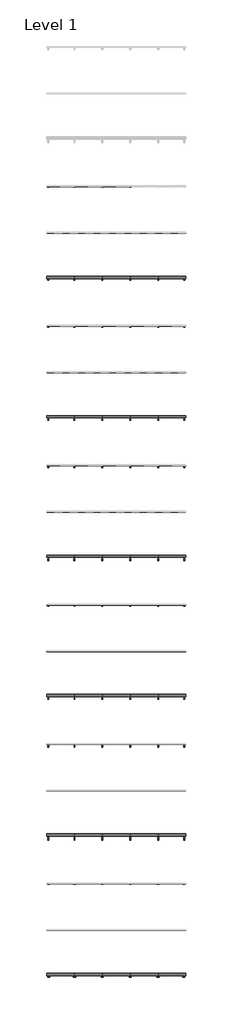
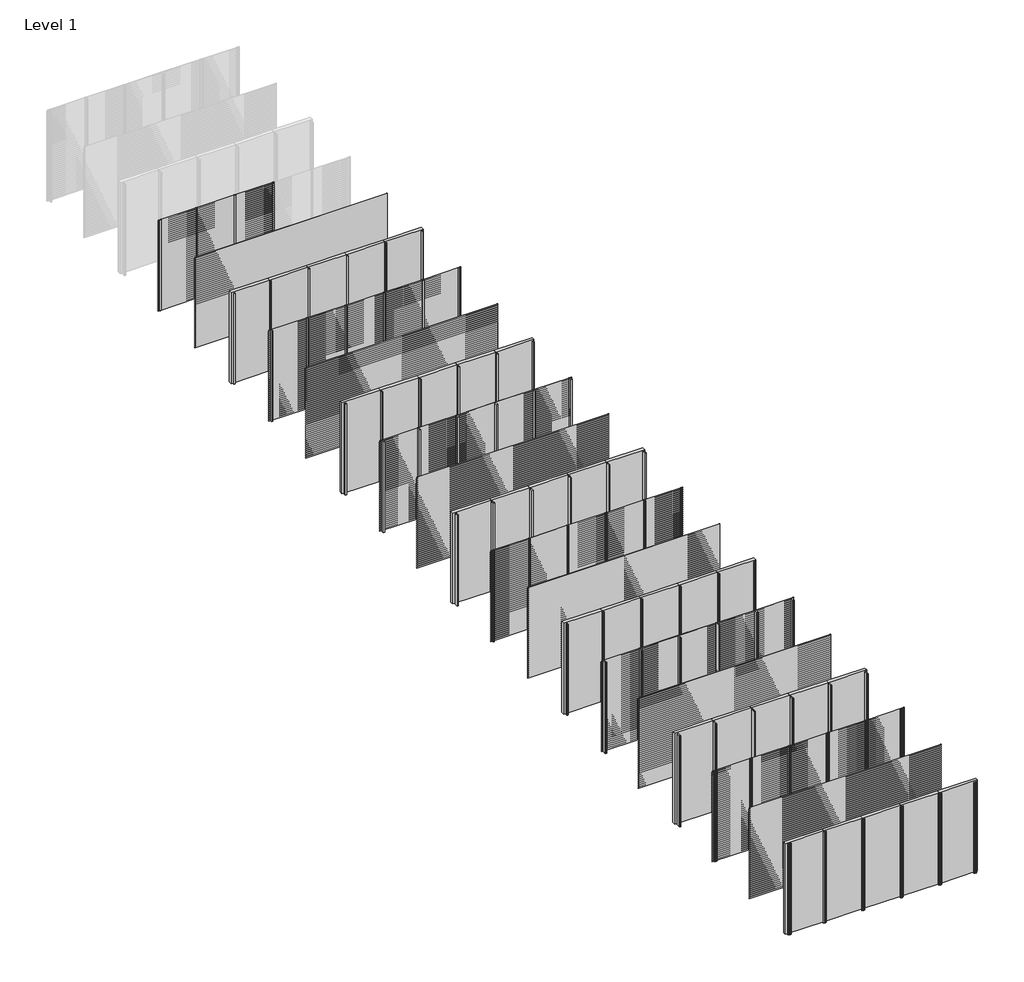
# One storey, part 1 of 33: 70 members, 64 plates.
"""IFC4 building model written with IfcOpenShell, lengths in millimetres."""

from ifc_helpers import new_model, si_unit, origin, origin_with_axes, place, context, project, spatial, polyline, outline, extrude, transform, mapped, element, save
from components import rectangular_mullion_3facce28, rectangular_mullion_6cf2c509, rectangular_mullion_8b77bd57, rectangular_mullion_2c867e25, rectangular_mullion_7803f5c4, rectangular_mullion_82152e2f, rectangular_mullion_2b84ad7e, rectangular_mullion_0fd695e7, rectangular_mullion_9b796d85, rectangular_mullion_dfb17e98, rectangular_mullion_6132f1f1, rectangular_mullion_8f153c19, rectangular_mullion_5b30f3fd, rectangular_mullion_5e0e8e0a, rectangular_mullion_d2d38772, rectangular_mullion_efb80f74, rectangular_mullion_aaa1fb1b, rectangular_mullion_ea9d012c, empty_system_panel_empty_aabbdda4

model = new_model("IFC4")

# Units and contexts
model_context = context("Model", 3, world=origin())
ifc_project = project(units=[si_unit("LENGTHUNIT", "METRE", prefix="MILLI")], contexts=[model_context])

# Site, building, storey
site = spatial("IfcSite", under=ifc_project)
building = spatial("IfcBuilding", under=site)
storey = spatial("IfcBuildingStorey", under=building, Name="Level 1", Elevation=0.0)

# Members
placement = place(None, origin())
rectangular_mullion_shape = rectangular_mullion_3facce28(model_context)
element("IfcMember", 1, ObjectType="Rectangular Mullion : NLRS_21_CWM_drager SD.014_Storax", at=placement, inside=storey, context=model_context, shape_type="MappedRepresentation", body=[
    mapped(rectangular_mullion_shape, transform((3600.0, -24000.0, 0.0), x_axis=(-1.0, 0.0, 0.0), y_axis=(0.0, 1.0, 0.0), z_axis=(0.0, 0.0, -1.0))),
])
element("IfcMember", 2, ObjectType="Rectangular Mullion : NLRS_21_CWM_drager SD.014_Storax", at=placement, inside=storey, context=model_context, shape_type="MappedRepresentation", body=[
    mapped(rectangular_mullion_shape, transform((2400.0, -24000.0, 0.0), x_axis=(-1.0, 0.0, 0.0), y_axis=(0.0, 1.0, 0.0), z_axis=(0.0, 0.0, -1.0))),
])
element("IfcMember", 3, ObjectType="Rectangular Mullion : NLRS_21_CWM_drager SD.014_Storax", at=placement, inside=storey, context=model_context, shape_type="MappedRepresentation", body=[
    mapped(rectangular_mullion_shape, transform((1200.0, -24000.0, 0.0), x_axis=(-1.0, 0.0, 0.0), y_axis=(0.0, 1.0, 0.0), z_axis=(0.0, 0.0, -1.0))),
])
element("IfcMember", 4, ObjectType="Rectangular Mullion : NLRS_21_CWM_drager SD.014_Storax", at=placement, inside=storey, context=model_context, shape_type="MappedRepresentation", body=[
    mapped(rectangular_mullion_shape, transform((4800.0, -28000.0, 0.0), x_axis=(-1.0, 0.0, 0.0), y_axis=(0.0, 1.0, 0.0), z_axis=(0.0, 0.0, -1.0))),
])
element("IfcMember", 5, ObjectType="Rectangular Mullion : NLRS_21_CWM_drager SD.014_Storax", at=placement, inside=storey, context=model_context, shape_type="MappedRepresentation", body=[
    mapped(rectangular_mullion_shape, transform((3600.0, -28000.0, 0.0), x_axis=(-1.0, 0.0, 0.0), y_axis=(0.0, 1.0, 0.0), z_axis=(0.0, 0.0, -1.0))),
])
element("IfcMember", 6, ObjectType="Rectangular Mullion : NLRS_21_CWM_drager SD.014_Storax", at=placement, inside=storey, context=model_context, shape_type="MappedRepresentation", body=[
    mapped(rectangular_mullion_shape, transform((2400.0, -28000.0, 0.0), x_axis=(-1.0, 0.0, 0.0), y_axis=(0.0, 1.0, 0.0), z_axis=(0.0, 0.0, -1.0))),
])
element("IfcMember", 7, ObjectType="Rectangular Mullion : NLRS_21_CWM_drager SD.014_Storax", at=placement, inside=storey, context=model_context, shape_type="MappedRepresentation", body=[
    mapped(rectangular_mullion_shape, transform((1200.0, -28000.0, 0.0), x_axis=(-1.0, 0.0, 0.0), y_axis=(0.0, 1.0, 0.0), z_axis=(0.0, 0.0, -1.0))),
])
rectangular_mullion_2_shape = rectangular_mullion_6cf2c509(model_context)
element("IfcMember", 8, ObjectType="Rectangular Mullion : NLRS_21_CWM_drager SD.054_Storax", at=placement, inside=storey, context=model_context, shape_type="MappedRepresentation", body=[
    mapped(rectangular_mullion_2_shape, transform((4800.0, -30000.0, 0.0), x_axis=(-1.0, 0.0, 0.0), y_axis=(0.0, 1.0, 0.0), z_axis=(0.0, 0.0, -1.0))),
])
element("IfcMember", 9, ObjectType="Rectangular Mullion : NLRS_21_CWM_drager SD.054_Storax", at=placement, inside=storey, context=model_context, shape_type="MappedRepresentation", body=[
    mapped(rectangular_mullion_2_shape, transform((3600.0, -30000.0, 0.0), x_axis=(-1.0, 0.0, 0.0), y_axis=(0.0, 1.0, 0.0), z_axis=(0.0, 0.0, -1.0))),
])
element("IfcMember", 10, ObjectType="Rectangular Mullion : NLRS_21_CWM_drager SD.054_Storax", at=placement, inside=storey, context=model_context, shape_type="MappedRepresentation", body=[
    mapped(rectangular_mullion_2_shape, transform((2400.0, -30000.0, 0.0), x_axis=(-1.0, 0.0, 0.0), y_axis=(0.0, 1.0, 0.0), z_axis=(0.0, 0.0, -1.0))),
])
element("IfcMember", 11, ObjectType="Rectangular Mullion : NLRS_21_CWM_drager SD.054_Storax", at=placement, inside=storey, context=model_context, shape_type="MappedRepresentation", body=[
    mapped(rectangular_mullion_2_shape, transform((1200.0, -30000.0, 0.0), x_axis=(-1.0, 0.0, 0.0), y_axis=(0.0, 1.0, 0.0), z_axis=(0.0, 0.0, -1.0))),
])
element("IfcMember", 12, ObjectType="Rectangular Mullion : NLRS_21_CWM_drager SD.054_Storax", at=placement, inside=storey, context=model_context, shape_type="MappedRepresentation", body=[
    mapped(rectangular_mullion_2_shape, transform((4800.0, -34000.0, 0.0), x_axis=(-1.0, 0.0, 0.0), y_axis=(0.0, 1.0, 0.0), z_axis=(0.0, 0.0, -1.0))),
])
element("IfcMember", 13, ObjectType="Rectangular Mullion : NLRS_21_CWM_drager SD.054_Storax", at=placement, inside=storey, context=model_context, shape_type="MappedRepresentation", body=[
    mapped(rectangular_mullion_2_shape, transform((3600.0, -34000.0, 0.0), x_axis=(-1.0, 0.0, 0.0), y_axis=(0.0, 1.0, 0.0), z_axis=(0.0, 0.0, -1.0))),
])
element("IfcMember", 14, ObjectType="Rectangular Mullion : NLRS_21_CWM_drager SD.054_Storax", at=placement, inside=storey, context=model_context, shape_type="MappedRepresentation", body=[
    mapped(rectangular_mullion_2_shape, transform((2400.0, -34000.0, 0.0), x_axis=(-1.0, 0.0, 0.0), y_axis=(0.0, 1.0, 0.0), z_axis=(0.0, 0.0, -1.0))),
])
element("IfcMember", 15, ObjectType="Rectangular Mullion : NLRS_21_CWM_drager SD.054_Storax", at=placement, inside=storey, context=model_context, shape_type="MappedRepresentation", body=[
    mapped(rectangular_mullion_2_shape, transform((1200.0, -34000.0, 0.0), x_axis=(-1.0, 0.0, 0.0), y_axis=(0.0, 1.0, 0.0), z_axis=(0.0, 0.0, -1.0))),
])
rectangular_mullion_3_shape = rectangular_mullion_8b77bd57(model_context)
element("IfcMember", 16, ObjectType="Rectangular Mullion : NLRS_21_CWM_drager SD.100_Storax", at=placement, inside=storey, context=model_context, shape_type="MappedRepresentation", body=[
    mapped(rectangular_mullion_3_shape, transform((4800.0, -36000.0, 0.0), x_axis=(-1.0, 0.0, 0.0), y_axis=(0.0, 1.0, 0.0), z_axis=(0.0, 0.0, -1.0))),
])
element("IfcMember", 17, ObjectType="Rectangular Mullion : NLRS_21_CWM_drager SD.100_Storax", at=placement, inside=storey, context=model_context, shape_type="MappedRepresentation", body=[
    mapped(rectangular_mullion_3_shape, transform((3600.0, -36000.0, 0.0), x_axis=(-1.0, 0.0, 0.0), y_axis=(0.0, 1.0, 0.0), z_axis=(0.0, 0.0, -1.0))),
])
element("IfcMember", 18, ObjectType="Rectangular Mullion : NLRS_21_CWM_drager SD.100_Storax", at=placement, inside=storey, context=model_context, shape_type="MappedRepresentation", body=[
    mapped(rectangular_mullion_3_shape, transform((2400.0, -36000.0, 0.0), x_axis=(-1.0, 0.0, 0.0), y_axis=(0.0, 1.0, 0.0), z_axis=(0.0, 0.0, -1.0))),
])
element("IfcMember", 19, ObjectType="Rectangular Mullion : NLRS_21_CWM_drager SD.100_Storax", at=placement, inside=storey, context=model_context, shape_type="MappedRepresentation", body=[
    mapped(rectangular_mullion_3_shape, transform((1200.0, -36000.0, 0.0), x_axis=(-1.0, 0.0, 0.0), y_axis=(0.0, 1.0, 0.0), z_axis=(0.0, 0.0, -1.0))),
])
element("IfcMember", 20, ObjectType="Rectangular Mullion : NLRS_21_CWM_drager SD.100_Storax", at=placement, inside=storey, context=model_context, shape_type="MappedRepresentation", body=[
    mapped(rectangular_mullion_3_shape, transform((4800.0, -40000.0, 0.0), x_axis=(-1.0, 0.0, 0.0), y_axis=(0.0, 1.0, 0.0), z_axis=(0.0, 0.0, -1.0))),
])
element("IfcMember", 21, ObjectType="Rectangular Mullion : NLRS_21_CWM_drager SD.100_Storax", at=placement, inside=storey, context=model_context, shape_type="MappedRepresentation", body=[
    mapped(rectangular_mullion_3_shape, transform((3600.0, -40000.0, 0.0), x_axis=(-1.0, 0.0, 0.0), y_axis=(0.0, 1.0, 0.0), z_axis=(0.0, 0.0, -1.0))),
])
element("IfcMember", 22, ObjectType="Rectangular Mullion : NLRS_21_CWM_drager SD.100_Storax", at=placement, inside=storey, context=model_context, shape_type="MappedRepresentation", body=[
    mapped(rectangular_mullion_3_shape, transform((2400.0, -40000.0, 0.0), x_axis=(-1.0, 0.0, 0.0), y_axis=(0.0, 1.0, 0.0), z_axis=(0.0, 0.0, -1.0))),
])
element("IfcMember", 23, ObjectType="Rectangular Mullion : NLRS_21_CWM_drager SD.100_Storax", at=placement, inside=storey, context=model_context, shape_type="MappedRepresentation", body=[
    mapped(rectangular_mullion_3_shape, transform((1200.0, -40000.0, 0.0), x_axis=(-1.0, 0.0, 0.0), y_axis=(0.0, 1.0, 0.0), z_axis=(0.0, 0.0, -1.0))),
])
rectangular_mullion_4_shape = rectangular_mullion_2c867e25(model_context)
element("IfcMember", 24, ObjectType="Rectangular Mullion : NLRS_21_CWM_drager LD.0440_Storax", at=placement, inside=storey, context=model_context, shape_type="MappedRepresentation", body=[
    mapped(rectangular_mullion_4_shape, transform((4800.0, -42000.0, 0.0), x_axis=(-1.0, 0.0, 0.0), y_axis=(0.0, 1.0, 0.0), z_axis=(0.0, 0.0, -1.0))),
])
element("IfcMember", 25, ObjectType="Rectangular Mullion : NLRS_21_CWM_drager LD.0440_Storax", at=placement, inside=storey, context=model_context, shape_type="MappedRepresentation", body=[
    mapped(rectangular_mullion_4_shape, transform((3600.0, -42000.0, 0.0), x_axis=(-1.0, 0.0, 0.0), y_axis=(0.0, 1.0, 0.0), z_axis=(0.0, 0.0, -1.0))),
])
element("IfcMember", 26, ObjectType="Rectangular Mullion : NLRS_21_CWM_drager LD.0440_Storax", at=placement, inside=storey, context=model_context, shape_type="MappedRepresentation", body=[
    mapped(rectangular_mullion_4_shape, transform((2400.0, -42000.0, 0.0), x_axis=(-1.0, 0.0, 0.0), y_axis=(0.0, 1.0, 0.0), z_axis=(0.0, 0.0, -1.0))),
])
element("IfcMember", 27, ObjectType="Rectangular Mullion : NLRS_21_CWM_drager LD.0440_Storax", at=placement, inside=storey, context=model_context, shape_type="MappedRepresentation", body=[
    mapped(rectangular_mullion_4_shape, transform((1200.0, -42000.0, 0.0), x_axis=(-1.0, 0.0, 0.0), y_axis=(0.0, 1.0, 0.0), z_axis=(0.0, 0.0, -1.0))),
])
element("IfcMember", 28, ObjectType="Rectangular Mullion : NLRS_21_CWM_drager LD.0440_Storax", at=placement, inside=storey, context=model_context, shape_type="MappedRepresentation", body=[
    mapped(rectangular_mullion_4_shape, transform((4800.0, -46000.0, 0.0), x_axis=(-1.0, 0.0, 0.0), y_axis=(0.0, 1.0, 0.0), z_axis=(0.0, 0.0, -1.0))),
])
element("IfcMember", 29, ObjectType="Rectangular Mullion : NLRS_21_CWM_drager LD.0440_Storax", at=placement, inside=storey, context=model_context, shape_type="MappedRepresentation", body=[
    mapped(rectangular_mullion_4_shape, transform((3600.0, -46000.0, 0.0), x_axis=(-1.0, 0.0, 0.0), y_axis=(0.0, 1.0, 0.0), z_axis=(0.0, 0.0, -1.0))),
])
element("IfcMember", 30, ObjectType="Rectangular Mullion : NLRS_21_CWM_drager LD.0440_Storax", at=placement, inside=storey, context=model_context, shape_type="MappedRepresentation", body=[
    mapped(rectangular_mullion_4_shape, transform((2400.0, -46000.0, 0.0), x_axis=(-1.0, 0.0, 0.0), y_axis=(0.0, 1.0, 0.0), z_axis=(0.0, 0.0, -1.0))),
])
element("IfcMember", 31, ObjectType="Rectangular Mullion : NLRS_21_CWM_drager LD.0440_Storax", at=placement, inside=storey, context=model_context, shape_type="MappedRepresentation", body=[
    mapped(rectangular_mullion_4_shape, transform((1200.0, -46000.0, 0.0), x_axis=(-1.0, 0.0, 0.0), y_axis=(0.0, 1.0, 0.0), z_axis=(0.0, 0.0, -1.0))),
])
rectangular_mullion_5_shape = rectangular_mullion_7803f5c4(model_context)
element("IfcMember", 32, ObjectType="Rectangular Mullion : NLRS_21_CWM_drager LD.1250_Storax", at=placement, inside=storey, context=model_context, shape_type="MappedRepresentation", body=[
    mapped(rectangular_mullion_5_shape, transform((4800.0, -48000.0, 0.0), x_axis=(-1.0, 0.0, 0.0), y_axis=(0.0, 1.0, 0.0), z_axis=(0.0, 0.0, -1.0))),
])
element("IfcMember", 33, ObjectType="Rectangular Mullion : NLRS_21_CWM_drager LD.1250_Storax", at=placement, inside=storey, context=model_context, shape_type="MappedRepresentation", body=[
    mapped(rectangular_mullion_5_shape, transform((3600.0, -48000.0, 0.0), x_axis=(-1.0, 0.0, 0.0), y_axis=(0.0, 1.0, 0.0), z_axis=(0.0, 0.0, -1.0))),
])
element("IfcMember", 34, ObjectType="Rectangular Mullion : NLRS_21_CWM_drager LD.1250_Storax", at=placement, inside=storey, context=model_context, shape_type="MappedRepresentation", body=[
    mapped(rectangular_mullion_5_shape, transform((2400.0, -48000.0, 0.0), x_axis=(-1.0, 0.0, 0.0), y_axis=(0.0, 1.0, 0.0), z_axis=(0.0, 0.0, -1.0))),
])
element("IfcMember", 35, ObjectType="Rectangular Mullion : NLRS_21_CWM_drager LD.1250_Storax", at=placement, inside=storey, context=model_context, shape_type="MappedRepresentation", body=[
    mapped(rectangular_mullion_5_shape, transform((1200.0, -48000.0, 0.0), x_axis=(-1.0, 0.0, 0.0), y_axis=(0.0, 1.0, 0.0), z_axis=(0.0, 0.0, -1.0))),
])
element("IfcMember", 36, ObjectType="Rectangular Mullion : NLRS_21_CWM_drager LD.1250_Storax", at=placement, inside=storey, context=model_context, shape_type="MappedRepresentation", body=[
    mapped(rectangular_mullion_5_shape, transform((4800.0, -52000.0, 0.0), x_axis=(-1.0, 0.0, 0.0), y_axis=(0.0, 1.0, 0.0), z_axis=(0.0, 0.0, -1.0))),
])
element("IfcMember", 37, ObjectType="Rectangular Mullion : NLRS_21_CWM_drager LD.1250_Storax", at=placement, inside=storey, context=model_context, shape_type="MappedRepresentation", body=[
    mapped(rectangular_mullion_5_shape, transform((3600.0, -52000.0, 0.0), x_axis=(-1.0, 0.0, 0.0), y_axis=(0.0, 1.0, 0.0), z_axis=(0.0, 0.0, -1.0))),
])
element("IfcMember", 38, ObjectType="Rectangular Mullion : NLRS_21_CWM_drager LD.1250_Storax", at=placement, inside=storey, context=model_context, shape_type="MappedRepresentation", body=[
    mapped(rectangular_mullion_5_shape, transform((2400.0, -52000.0, 0.0), x_axis=(-1.0, 0.0, 0.0), y_axis=(0.0, 1.0, 0.0), z_axis=(0.0, 0.0, -1.0))),
])
element("IfcMember", 39, ObjectType="Rectangular Mullion : NLRS_21_CWM_drager LD.1250_Storax", at=placement, inside=storey, context=model_context, shape_type="MappedRepresentation", body=[
    mapped(rectangular_mullion_5_shape, transform((1200.0, -52000.0, 0.0), x_axis=(-1.0, 0.0, 0.0), y_axis=(0.0, 1.0, 0.0), z_axis=(0.0, 0.0, -1.0))),
])
rectangular_mullion_6_shape = rectangular_mullion_82152e2f(model_context)
element("IfcMember", 40, ObjectType="Rectangular Mullion : NLRS_21_CWM_drager LD.0240_Storax", at=placement, inside=storey, context=model_context, shape_type="MappedRepresentation", body=[
    mapped(rectangular_mullion_6_shape, transform((4800.0, -54000.0, 0.0), x_axis=(-1.0, 0.0, 0.0), y_axis=(0.0, 1.0, 0.0), z_axis=(0.0, 0.0, -1.0))),
])
element("IfcMember", 41, ObjectType="Rectangular Mullion : NLRS_21_CWM_drager LD.0240_Storax", at=placement, inside=storey, context=model_context, shape_type="MappedRepresentation", body=[
    mapped(rectangular_mullion_6_shape, transform((3600.0, -54000.0, 0.0), x_axis=(-1.0, 0.0, 0.0), y_axis=(0.0, 1.0, 0.0), z_axis=(0.0, 0.0, -1.0))),
])
element("IfcMember", 42, ObjectType="Rectangular Mullion : NLRS_21_CWM_drager LD.0240_Storax", at=placement, inside=storey, context=model_context, shape_type="MappedRepresentation", body=[
    mapped(rectangular_mullion_6_shape, transform((2400.0, -54000.0, 0.0), x_axis=(-1.0, 0.0, 0.0), y_axis=(0.0, 1.0, 0.0), z_axis=(0.0, 0.0, -1.0))),
])
element("IfcMember", 43, ObjectType="Rectangular Mullion : NLRS_21_CWM_drager LD.0240_Storax", at=placement, inside=storey, context=model_context, shape_type="MappedRepresentation", body=[
    mapped(rectangular_mullion_6_shape, transform((1200.0, -54000.0, 0.0), x_axis=(-1.0, 0.0, 0.0), y_axis=(0.0, 1.0, 0.0), z_axis=(0.0, 0.0, -1.0))),
])
element("IfcMember", 44, ObjectType="Rectangular Mullion : NLRS_21_CWM_drager LD.0240_Storax", at=placement, inside=storey, context=model_context, shape_type="MappedRepresentation", body=[
    mapped(rectangular_mullion_6_shape, transform((4800.0, -58000.0, 0.0), x_axis=(-1.0, 0.0, 0.0), y_axis=(0.0, 1.0, 0.0), z_axis=(0.0, 0.0, -1.0))),
])
element("IfcMember", 45, ObjectType="Rectangular Mullion : NLRS_21_CWM_drager LD.0240_Storax", at=placement, inside=storey, context=model_context, shape_type="MappedRepresentation", body=[
    mapped(rectangular_mullion_6_shape, transform((3600.0, -58000.0, 0.0), x_axis=(-1.0, 0.0, 0.0), y_axis=(0.0, 1.0, 0.0), z_axis=(0.0, 0.0, -1.0))),
])
element("IfcMember", 46, ObjectType="Rectangular Mullion : NLRS_21_CWM_drager LD.0240_Storax", at=placement, inside=storey, context=model_context, shape_type="MappedRepresentation", body=[
    mapped(rectangular_mullion_6_shape, transform((2400.0, -58000.0, 0.0), x_axis=(-1.0, 0.0, 0.0), y_axis=(0.0, 1.0, 0.0), z_axis=(0.0, 0.0, -1.0))),
])
element("IfcMember", 47, ObjectType="Rectangular Mullion : NLRS_21_CWM_drager LD.0240_Storax", at=placement, inside=storey, context=model_context, shape_type="MappedRepresentation", body=[
    mapped(rectangular_mullion_6_shape, transform((1200.0, -58000.0, 0.0), x_axis=(-1.0, 0.0, 0.0), y_axis=(0.0, 1.0, 0.0), z_axis=(0.0, 0.0, -1.0))),
])
rectangular_mullion_7_shape = rectangular_mullion_2b84ad7e(model_context)
element("IfcMember", 48, ObjectType="Rectangular Mullion : NLRS_21_CWM_drager SD.014 - links_Storax", at=placement, inside=storey, context=model_context, shape_type="MappedRepresentation", body=[
    mapped(rectangular_mullion_7_shape, transform((0.0, -24000.0, 0.0), x_axis=(-1.0, 0.0, 0.0), y_axis=(0.0, 1.0, 0.0), z_axis=(0.0, 0.0, -1.0))),
])
element("IfcMember", 49, ObjectType="Rectangular Mullion : NLRS_21_CWM_drager SD.014 - links_Storax", at=placement, inside=storey, context=model_context, shape_type="MappedRepresentation", body=[
    mapped(rectangular_mullion_7_shape, transform((0.0, -28000.0, 0.0), x_axis=(-1.0, 0.0, 0.0), y_axis=(0.0, 1.0, 0.0), z_axis=(0.0, 0.0, -1.0))),
])
rectangular_mullion_8_shape = rectangular_mullion_0fd695e7(model_context)
element("IfcMember", 50, ObjectType="Rectangular Mullion : NLRS_21_CWM_drager SD.014 - rechts_Storax", at=placement, inside=storey, context=model_context, shape_type="MappedRepresentation", body=[
    mapped(rectangular_mullion_8_shape, transform((6000.0, -28000.0, 3000.0), x_axis=(1.0, 0.0, 0.0), y_axis=(0.0, 1.0, 0.0), z_axis=(0.0, 0.0, 1.0))),
])
rectangular_mullion_9_shape = rectangular_mullion_9b796d85(model_context)
element("IfcMember", 51, ObjectType="Rectangular Mullion : NLRS_21_CWM_drager SD.054 - links_Storax", at=placement, inside=storey, context=model_context, shape_type="MappedRepresentation", body=[
    mapped(rectangular_mullion_9_shape, transform((0.0, -30000.0, 0.0), x_axis=(-1.0, 0.0, 0.0), y_axis=(0.0, 1.0, 0.0), z_axis=(0.0, 0.0, -1.0))),
])
element("IfcMember", 52, ObjectType="Rectangular Mullion : NLRS_21_CWM_drager SD.054 - links_Storax", at=placement, inside=storey, context=model_context, shape_type="MappedRepresentation", body=[
    mapped(rectangular_mullion_9_shape, transform((0.0, -34000.0, 0.0), x_axis=(-1.0, 0.0, 0.0), y_axis=(0.0, 1.0, 0.0), z_axis=(0.0, 0.0, -1.0))),
])
rectangular_mullion_10_shape = rectangular_mullion_dfb17e98(model_context)
element("IfcMember", 53, ObjectType="Rectangular Mullion : NLRS_21_CWM_drager SD.054 - rechts_Storax", at=placement, inside=storey, context=model_context, shape_type="MappedRepresentation", body=[
    mapped(rectangular_mullion_10_shape, transform((6000.0, -30000.0, 3000.0), x_axis=(1.0, 0.0, 0.0), y_axis=(0.0, 1.0, 0.0), z_axis=(0.0, 0.0, 1.0))),
])
element("IfcMember", 54, ObjectType="Rectangular Mullion : NLRS_21_CWM_drager SD.054 - rechts_Storax", at=placement, inside=storey, context=model_context, shape_type="MappedRepresentation", body=[
    mapped(rectangular_mullion_10_shape, transform((6000.0, -34000.0, 3000.0), x_axis=(1.0, 0.0, 0.0), y_axis=(0.0, 1.0, 0.0), z_axis=(0.0, 0.0, 1.0))),
])
rectangular_mullion_11_shape = rectangular_mullion_6132f1f1(model_context)
element("IfcMember", 55, ObjectType="Rectangular Mullion : NLRS_21_CWM_drager SD.100 - links_Storax", at=placement, inside=storey, context=model_context, shape_type="MappedRepresentation", body=[
    mapped(rectangular_mullion_11_shape, transform((0.0, -36000.0, 0.0), x_axis=(-1.0, 0.0, 0.0), y_axis=(0.0, 1.0, 0.0), z_axis=(0.0, 0.0, -1.0))),
])
element("IfcMember", 56, ObjectType="Rectangular Mullion : NLRS_21_CWM_drager SD.100 - links_Storax", at=placement, inside=storey, context=model_context, shape_type="MappedRepresentation", body=[
    mapped(rectangular_mullion_11_shape, transform((0.0, -40000.0, 0.0), x_axis=(-1.0, 0.0, 0.0), y_axis=(0.0, 1.0, 0.0), z_axis=(0.0, 0.0, -1.0))),
])
rectangular_mullion_12_shape = rectangular_mullion_8f153c19(model_context)
element("IfcMember", 57, ObjectType="Rectangular Mullion : NLRS_21_CWM_drager SD.100 - rechts_Storax", at=placement, inside=storey, context=model_context, shape_type="MappedRepresentation", body=[
    mapped(rectangular_mullion_12_shape, transform((6000.0, -36000.0, 3000.0), x_axis=(1.0, 0.0, 0.0), y_axis=(0.0, 1.0, 0.0), z_axis=(0.0, 0.0, 1.0))),
])
element("IfcMember", 58, ObjectType="Rectangular Mullion : NLRS_21_CWM_drager SD.100 - rechts_Storax", at=placement, inside=storey, context=model_context, shape_type="MappedRepresentation", body=[
    mapped(rectangular_mullion_12_shape, transform((6000.0, -40000.0, 3000.0), x_axis=(1.0, 0.0, 0.0), y_axis=(0.0, 1.0, 0.0), z_axis=(0.0, 0.0, 1.0))),
])
rectangular_mullion_13_shape = rectangular_mullion_5b30f3fd(model_context)
element("IfcMember", 59, ObjectType="Rectangular Mullion : NLRS_21_CWM_drager LD.0440 - links_Storax", at=placement, inside=storey, context=model_context, shape_type="MappedRepresentation", body=[
    mapped(rectangular_mullion_13_shape, transform((0.0, -42000.0, 0.0), x_axis=(-1.0, 0.0, 0.0), y_axis=(0.0, 1.0, 0.0), z_axis=(0.0, 0.0, -1.0))),
])
element("IfcMember", 60, ObjectType="Rectangular Mullion : NLRS_21_CWM_drager LD.0440 - links_Storax", at=placement, inside=storey, context=model_context, shape_type="MappedRepresentation", body=[
    mapped(rectangular_mullion_13_shape, transform((0.0, -46000.0, 0.0), x_axis=(-1.0, 0.0, 0.0), y_axis=(0.0, 1.0, 0.0), z_axis=(0.0, 0.0, -1.0))),
])
rectangular_mullion_14_shape = rectangular_mullion_5e0e8e0a(model_context)
element("IfcMember", 61, ObjectType="Rectangular Mullion : NLRS_21_CWM_drager LD.0440 - rechts_Storax", at=placement, inside=storey, context=model_context, shape_type="MappedRepresentation", body=[
    mapped(rectangular_mullion_14_shape, transform((6000.0, -42000.0, 3000.0), x_axis=(1.0, 0.0, 0.0), y_axis=(0.0, 1.0, 0.0), z_axis=(0.0, 0.0, 1.0))),
])
element("IfcMember", 62, ObjectType="Rectangular Mullion : NLRS_21_CWM_drager LD.0440 - rechts_Storax", at=placement, inside=storey, context=model_context, shape_type="MappedRepresentation", body=[
    mapped(rectangular_mullion_14_shape, transform((6000.0, -46000.0, 3000.0), x_axis=(1.0, 0.0, 0.0), y_axis=(0.0, 1.0, 0.0), z_axis=(0.0, 0.0, 1.0))),
])
rectangular_mullion_15_shape = rectangular_mullion_d2d38772(model_context)
element("IfcMember", 63, ObjectType="Rectangular Mullion : NLRS_21_CWM_drager LD.1250 - links_Storax", at=placement, inside=storey, context=model_context, shape_type="MappedRepresentation", body=[
    mapped(rectangular_mullion_15_shape, transform((0.0, -48000.0, 0.0), x_axis=(-1.0, 0.0, 0.0), y_axis=(0.0, 1.0, 0.0), z_axis=(0.0, 0.0, -1.0))),
])
element("IfcMember", 64, ObjectType="Rectangular Mullion : NLRS_21_CWM_drager LD.1250 - links_Storax", at=placement, inside=storey, context=model_context, shape_type="MappedRepresentation", body=[
    mapped(rectangular_mullion_15_shape, transform((0.0, -52000.0, 0.0), x_axis=(-1.0, 0.0, 0.0), y_axis=(0.0, 1.0, 0.0), z_axis=(0.0, 0.0, -1.0))),
])
rectangular_mullion_16_shape = rectangular_mullion_efb80f74(model_context)
element("IfcMember", 65, ObjectType="Rectangular Mullion : NLRS_21_CWM_drager LD.1250 - rechts_Storax", at=placement, inside=storey, context=model_context, shape_type="MappedRepresentation", body=[
    mapped(rectangular_mullion_16_shape, transform((6000.0, -48000.0, 3000.0), x_axis=(1.0, 0.0, 0.0), y_axis=(0.0, 1.0, 0.0), z_axis=(0.0, 0.0, 1.0))),
])
element("IfcMember", 66, ObjectType="Rectangular Mullion : NLRS_21_CWM_drager LD.1250 - rechts_Storax", at=placement, inside=storey, context=model_context, shape_type="MappedRepresentation", body=[
    mapped(rectangular_mullion_16_shape, transform((6000.0, -52000.0, 3000.0), x_axis=(1.0, 0.0, 0.0), y_axis=(0.0, 1.0, 0.0), z_axis=(0.0, 0.0, 1.0))),
])
rectangular_mullion_17_shape = rectangular_mullion_aaa1fb1b(model_context)
element("IfcMember", 67, ObjectType="Rectangular Mullion : NLRS_21_CWM_drager LD.0240 - links_Storax", at=placement, inside=storey, context=model_context, shape_type="MappedRepresentation", body=[
    mapped(rectangular_mullion_17_shape, transform((0.0, -54000.0, 0.0), x_axis=(-1.0, 0.0, 0.0), y_axis=(0.0, 1.0, 0.0), z_axis=(0.0, 0.0, -1.0))),
])
element("IfcMember", 68, ObjectType="Rectangular Mullion : NLRS_21_CWM_drager LD.0240 - links_Storax", at=placement, inside=storey, context=model_context, shape_type="MappedRepresentation", body=[
    mapped(rectangular_mullion_17_shape, transform((0.0, -58000.0, 0.0), x_axis=(-1.0, 0.0, 0.0), y_axis=(0.0, 1.0, 0.0), z_axis=(0.0, 0.0, -1.0))),
])
rectangular_mullion_18_shape = rectangular_mullion_ea9d012c(model_context)
element("IfcMember", 69, ObjectType="Rectangular Mullion : NLRS_21_CWM_drager LD.0240 - rechts_Storax", at=placement, inside=storey, context=model_context, shape_type="MappedRepresentation", body=[
    mapped(rectangular_mullion_18_shape, transform((6000.0, -54000.0, 3000.0), x_axis=(1.0, 0.0, 0.0), y_axis=(0.0, 1.0, 0.0), z_axis=(0.0, 0.0, 1.0))),
])
element("IfcMember", 70, ObjectType="Rectangular Mullion : NLRS_21_CWM_drager LD.0240 - rechts_Storax", at=placement, inside=storey, context=model_context, shape_type="MappedRepresentation", body=[
    mapped(rectangular_mullion_18_shape, transform((6000.0, -58000.0, 3000.0), x_axis=(1.0, 0.0, 0.0), y_axis=(0.0, 1.0, 0.0), z_axis=(0.0, 0.0, 1.0))),
])

# Plates
element("IfcPlate", 71, ObjectType="NLRS_21_WA_lamellenwand Linius - L.066.06_Storax", at=placement, inside=storey, context=model_context, shape_type="SweptSolid", body=[
    extrude(outline(polyline([(0.0, -23999.0), (1200.0, -23999.0), (1200.0, -24001.0), (0.0, -24001.0), (0.0, -23999.0)])), origin_with_axes(), (0.0, 0.0, 1.0), 3000.0),
])
element("IfcPlate", 72, ObjectType="NLRS_21_WA_lamellenwand Linius - L.066.06_Storax", at=placement, inside=storey, context=model_context, shape_type="SweptSolid", body=[
    extrude(outline(polyline([(1200.0, -23999.0), (2400.0, -23999.0), (2400.0, -24001.0), (1200.0, -24001.0), (1200.0, -23999.0)])), origin_with_axes(), (0.0, 0.0, 1.0), 3000.0),
])
element("IfcPlate", 73, ObjectType="NLRS_21_WA_lamellenwand Linius - L.066.06_Storax", at=placement, inside=storey, context=model_context, shape_type="SweptSolid", body=[
    extrude(outline(polyline([(2400.0, -23999.0), (3600.0, -23999.0), (3600.0, -24001.0), (2400.0, -24001.0), (2400.0, -23999.0)])), origin_with_axes(), (0.0, 0.0, 1.0), 3000.0),
])
element("IfcPlate", 74, ObjectType="NLRS_21_WA_lamellenwand Linius - L.066.06_Storax", at=placement, inside=storey, context=model_context, shape_type="SweptSolid", body=[
    extrude(outline(polyline([(0.0, -25999.0), (6000.0, -25999.0), (6000.0, -26001.0), (0.0, -26001.0), (0.0, -25999.0)])), origin_with_axes(), (0.0, 0.0, 1.0), 3000.0),
])
element("IfcPlate", 75, ObjectType="NLRS_21_WA_lamellenwand Linius - L.066.06_Storax", at=placement, inside=storey, context=model_context, shape_type="SweptSolid", body=[
    extrude(outline(polyline([(0.0, -29999.0), (1200.0, -29999.0), (1200.0, -30001.0), (0.0, -30001.0), (0.0, -29999.0)])), origin_with_axes(), (0.0, 0.0, 1.0), 3000.0),
])
element("IfcPlate", 76, ObjectType="NLRS_21_WA_lamellenwand Linius - L.066.06_Storax", at=placement, inside=storey, context=model_context, shape_type="SweptSolid", body=[
    extrude(outline(polyline([(1200.0, -29999.0), (2400.0, -29999.0), (2400.0, -30001.0), (1200.0, -30001.0), (1200.0, -29999.0)])), origin_with_axes(), (0.0, 0.0, 1.0), 3000.0),
])
element("IfcPlate", 77, ObjectType="NLRS_21_WA_lamellenwand Linius - L.066.06_Storax", at=placement, inside=storey, context=model_context, shape_type="SweptSolid", body=[
    extrude(outline(polyline([(2400.0, -29999.0), (3600.0, -29999.0), (3600.0, -30001.0), (2400.0, -30001.0), (2400.0, -29999.0)])), origin_with_axes(), (0.0, 0.0, 1.0), 3000.0),
])
element("IfcPlate", 78, ObjectType="NLRS_21_WA_lamellenwand Linius - L.066.06_Storax", at=placement, inside=storey, context=model_context, shape_type="SweptSolid", body=[
    extrude(outline(polyline([(3600.0, -29999.0), (4800.0, -29999.0), (4800.0, -30001.0), (3600.0, -30001.0), (3600.0, -29999.0)])), origin_with_axes(), (0.0, 0.0, 1.0), 3000.0),
])
element("IfcPlate", 79, ObjectType="NLRS_21_WA_lamellenwand Linius - L.066.06_Storax", at=placement, inside=storey, context=model_context, shape_type="SweptSolid", body=[
    extrude(outline(polyline([(4800.0, -29999.0), (6000.0, -29999.0), (6000.0, -30001.0), (4800.0, -30001.0), (4800.0, -29999.0)])), origin_with_axes(), (0.0, 0.0, 1.0), 3000.0),
])
element("IfcPlate", 80, ObjectType="NLRS_21_WA_lamellenwand Linius - L.066.06_Storax", at=placement, inside=storey, context=model_context, shape_type="SweptSolid", body=[
    extrude(outline(polyline([(0.0, -31999.0), (6000.0, -31999.0), (6000.0, -32001.0), (0.0, -32001.0), (0.0, -31999.0)])), origin_with_axes(), (0.0, 0.0, 1.0), 3000.0),
])
element("IfcPlate", 81, ObjectType="NLRS_21_WA_lamellenwand Linius - L.066.06_Storax", at=placement, inside=storey, context=model_context, shape_type="SweptSolid", body=[
    extrude(outline(polyline([(0.0, -35999.0), (1200.0, -35999.0), (1200.0, -36001.0), (0.0, -36001.0), (0.0, -35999.0)])), origin_with_axes(), (0.0, 0.0, 1.0), 3000.0),
])
element("IfcPlate", 82, ObjectType="NLRS_21_WA_lamellenwand Linius - L.066.06_Storax", at=placement, inside=storey, context=model_context, shape_type="SweptSolid", body=[
    extrude(outline(polyline([(1200.0, -35999.0), (2400.0, -35999.0), (2400.0, -36001.0), (1200.0, -36001.0), (1200.0, -35999.0)])), origin_with_axes(), (0.0, 0.0, 1.0), 3000.0),
])
element("IfcPlate", 83, ObjectType="NLRS_21_WA_lamellenwand Linius - L.066.06_Storax", at=placement, inside=storey, context=model_context, shape_type="SweptSolid", body=[
    extrude(outline(polyline([(2400.0, -35999.0), (3600.0, -35999.0), (3600.0, -36001.0), (2400.0, -36001.0), (2400.0, -35999.0)])), origin_with_axes(), (0.0, 0.0, 1.0), 3000.0),
])
element("IfcPlate", 84, ObjectType="NLRS_21_WA_lamellenwand Linius - L.066.06_Storax", at=placement, inside=storey, context=model_context, shape_type="SweptSolid", body=[
    extrude(outline(polyline([(3600.0, -35999.0), (4800.0, -35999.0), (4800.0, -36001.0), (3600.0, -36001.0), (3600.0, -35999.0)])), origin_with_axes(), (0.0, 0.0, 1.0), 3000.0),
])
element("IfcPlate", 85, ObjectType="NLRS_21_WA_lamellenwand Linius - L.066.06_Storax", at=placement, inside=storey, context=model_context, shape_type="SweptSolid", body=[
    extrude(outline(polyline([(4800.0, -35999.0), (6000.0, -35999.0), (6000.0, -36001.0), (4800.0, -36001.0), (4800.0, -35999.0)])), origin_with_axes(), (0.0, 0.0, 1.0), 3000.0),
])
element("IfcPlate", 86, ObjectType="NLRS_21_WA_lamellenwand Linius - L.066.06_Storax", at=placement, inside=storey, context=model_context, shape_type="SweptSolid", body=[
    extrude(outline(polyline([(0.0, -37999.0), (6000.0, -37999.0), (6000.0, -38001.0), (0.0, -38001.0), (0.0, -37999.0)])), origin_with_axes(), (0.0, 0.0, 1.0), 3000.0),
])
element("IfcPlate", 87, ObjectType="NLRS_21_WA_lamellenwand Linius - L.066.06_Storax", at=placement, inside=storey, context=model_context, shape_type="SweptSolid", body=[
    extrude(outline(polyline([(0.0, -41999.0), (1200.0, -41999.0), (1200.0, -42001.0), (0.0, -42001.0), (0.0, -41999.0)])), origin_with_axes(), (0.0, 0.0, 1.0), 3000.0),
])
element("IfcPlate", 88, ObjectType="NLRS_21_WA_lamellenwand Linius - L.066.06_Storax", at=placement, inside=storey, context=model_context, shape_type="SweptSolid", body=[
    extrude(outline(polyline([(1200.0, -41999.0), (2400.0, -41999.0), (2400.0, -42001.0), (1200.0, -42001.0), (1200.0, -41999.0)])), origin_with_axes(), (0.0, 0.0, 1.0), 3000.0),
])
element("IfcPlate", 89, ObjectType="NLRS_21_WA_lamellenwand Linius - L.066.06_Storax", at=placement, inside=storey, context=model_context, shape_type="SweptSolid", body=[
    extrude(outline(polyline([(2400.0, -41999.0), (3600.0, -41999.0), (3600.0, -42001.0), (2400.0, -42001.0), (2400.0, -41999.0)])), origin_with_axes(), (0.0, 0.0, 1.0), 3000.0),
])
element("IfcPlate", 90, ObjectType="NLRS_21_WA_lamellenwand Linius - L.066.06_Storax", at=placement, inside=storey, context=model_context, shape_type="SweptSolid", body=[
    extrude(outline(polyline([(3600.0, -41999.0), (4800.0, -41999.0), (4800.0, -42001.0), (3600.0, -42001.0), (3600.0, -41999.0)])), origin_with_axes(), (0.0, 0.0, 1.0), 3000.0),
])
element("IfcPlate", 91, ObjectType="NLRS_21_WA_lamellenwand Linius - L.066.06_Storax", at=placement, inside=storey, context=model_context, shape_type="SweptSolid", body=[
    extrude(outline(polyline([(4800.0, -41999.0), (6000.0, -41999.0), (6000.0, -42001.0), (4800.0, -42001.0), (4800.0, -41999.0)])), origin_with_axes(), (0.0, 0.0, 1.0), 3000.0),
])
element("IfcPlate", 92, ObjectType="NLRS_21_WA_lamellenwand Linius - L.066.06_Storax", at=placement, inside=storey, context=model_context, shape_type="SweptSolid", body=[
    extrude(outline(polyline([(0.0, -43999.0), (6000.0, -43999.0), (6000.0, -44001.0), (0.0, -44001.0), (0.0, -43999.0)])), origin_with_axes(), (0.0, 0.0, 1.0), 3000.0),
])
element("IfcPlate", 93, ObjectType="NLRS_21_WA_lamellenwand Linius - L.066.06_Storax", at=placement, inside=storey, context=model_context, shape_type="SweptSolid", body=[
    extrude(outline(polyline([(0.0, -47999.0), (1200.0, -47999.0), (1200.0, -48001.0), (0.0, -48001.0), (0.0, -47999.0)])), origin_with_axes(), (0.0, 0.0, 1.0), 3000.0),
])
element("IfcPlate", 94, ObjectType="NLRS_21_WA_lamellenwand Linius - L.066.06_Storax", at=placement, inside=storey, context=model_context, shape_type="SweptSolid", body=[
    extrude(outline(polyline([(1200.0, -47999.0), (2400.0, -47999.0), (2400.0, -48001.0), (1200.0, -48001.0), (1200.0, -47999.0)])), origin_with_axes(), (0.0, 0.0, 1.0), 3000.0),
])
element("IfcPlate", 95, ObjectType="NLRS_21_WA_lamellenwand Linius - L.066.06_Storax", at=placement, inside=storey, context=model_context, shape_type="SweptSolid", body=[
    extrude(outline(polyline([(2400.0, -47999.0), (3600.0, -47999.0), (3600.0, -48001.0), (2400.0, -48001.0), (2400.0, -47999.0)])), origin_with_axes(), (0.0, 0.0, 1.0), 3000.0),
])
element("IfcPlate", 96, ObjectType="NLRS_21_WA_lamellenwand Linius - L.066.06_Storax", at=placement, inside=storey, context=model_context, shape_type="SweptSolid", body=[
    extrude(outline(polyline([(3600.0, -47999.0), (4800.0, -47999.0), (4800.0, -48001.0), (3600.0, -48001.0), (3600.0, -47999.0)])), origin_with_axes(), (0.0, 0.0, 1.0), 3000.0),
])
element("IfcPlate", 97, ObjectType="NLRS_21_WA_lamellenwand Linius - L.066.06_Storax", at=placement, inside=storey, context=model_context, shape_type="SweptSolid", body=[
    extrude(outline(polyline([(4800.0, -47999.0), (6000.0, -47999.0), (6000.0, -48001.0), (4800.0, -48001.0), (4800.0, -47999.0)])), origin_with_axes(), (0.0, 0.0, 1.0), 3000.0),
])
element("IfcPlate", 98, ObjectType="NLRS_21_WA_lamellenwand Linius - L.066.06_Storax", at=placement, inside=storey, context=model_context, shape_type="SweptSolid", body=[
    extrude(outline(polyline([(0.0, -49999.0), (6000.0, -49999.0), (6000.0, -50001.0), (0.0, -50001.0), (0.0, -49999.0)])), origin_with_axes(), (0.0, 0.0, 1.0), 3000.0),
])
element("IfcPlate", 99, ObjectType="NLRS_21_WA_lamellenwand Linius - L.066.06_Storax", at=placement, inside=storey, context=model_context, shape_type="SweptSolid", body=[
    extrude(outline(polyline([(0.0, -53999.0), (1200.0, -53999.0), (1200.0, -54001.0), (0.0, -54001.0), (0.0, -53999.0)])), origin_with_axes(), (0.0, 0.0, 1.0), 3000.0),
])
element("IfcPlate", 100, ObjectType="NLRS_21_WA_lamellenwand Linius - L.066.06_Storax", at=placement, inside=storey, context=model_context, shape_type="SweptSolid", body=[
    extrude(outline(polyline([(1200.0, -53999.0), (2400.0, -53999.0), (2400.0, -54001.0), (1200.0, -54001.0), (1200.0, -53999.0)])), origin_with_axes(), (0.0, 0.0, 1.0), 3000.0),
])
element("IfcPlate", 101, ObjectType="NLRS_21_WA_lamellenwand Linius - L.066.06_Storax", at=placement, inside=storey, context=model_context, shape_type="SweptSolid", body=[
    extrude(outline(polyline([(2400.0, -53999.0), (3600.0, -53999.0), (3600.0, -54001.0), (2400.0, -54001.0), (2400.0, -53999.0)])), origin_with_axes(), (0.0, 0.0, 1.0), 3000.0),
])
element("IfcPlate", 102, ObjectType="NLRS_21_WA_lamellenwand Linius - L.066.06_Storax", at=placement, inside=storey, context=model_context, shape_type="SweptSolid", body=[
    extrude(outline(polyline([(3600.0, -53999.0), (4800.0, -53999.0), (4800.0, -54001.0), (3600.0, -54001.0), (3600.0, -53999.0)])), origin_with_axes(), (0.0, 0.0, 1.0), 3000.0),
])
element("IfcPlate", 103, ObjectType="NLRS_21_WA_lamellenwand Linius - L.066.06_Storax", at=placement, inside=storey, context=model_context, shape_type="SweptSolid", body=[
    extrude(outline(polyline([(4800.0, -53999.0), (6000.0, -53999.0), (6000.0, -54001.0), (4800.0, -54001.0), (4800.0, -53999.0)])), origin_with_axes(), (0.0, 0.0, 1.0), 3000.0),
])
element("IfcPlate", 104, ObjectType="NLRS_21_WA_lamellenwand Linius - L.066.06_Storax", at=placement, inside=storey, context=model_context, shape_type="SweptSolid", body=[
    extrude(outline(polyline([(0.0, -55999.0), (6000.0, -55999.0), (6000.0, -56001.0), (0.0, -56001.0), (0.0, -55999.0)])), origin_with_axes(), (0.0, 0.0, 1.0), 3000.0),
])
empty_system_panel_empty_shape = empty_system_panel_empty_aabbdda4(model_context)
element("IfcPlate", 105, ObjectType="Empty System Panel : Empty", at=placement, inside=storey, context=model_context, shape_type="MappedRepresentation", body=[
    mapped(empty_system_panel_empty_shape, transform((5400.0, -28000.0, 0.0), x_axis=(-1.0, 0.0, 0.0), y_axis=(0.0, -1.0, 0.0), z_axis=(0.0, 0.0, 1.0))),
])
element("IfcPlate", 106, ObjectType="Empty System Panel : Empty", at=placement, inside=storey, context=model_context, shape_type="MappedRepresentation", body=[
    mapped(empty_system_panel_empty_shape, transform((5400.0, -34000.0, 0.0), x_axis=(-1.0, 0.0, 0.0), y_axis=(0.0, -1.0, 0.0), z_axis=(0.0, 0.0, 1.0))),
])
element("IfcPlate", 107, ObjectType="Empty System Panel : Empty", at=placement, inside=storey, context=model_context, shape_type="MappedRepresentation", body=[
    mapped(empty_system_panel_empty_shape, transform((5400.0, -40000.0, 0.0), x_axis=(-1.0, 0.0, 0.0), y_axis=(0.0, -1.0, 0.0), z_axis=(0.0, 0.0, 1.0))),
])
element("IfcPlate", 108, ObjectType="Empty System Panel : Empty", at=placement, inside=storey, context=model_context, shape_type="MappedRepresentation", body=[
    mapped(empty_system_panel_empty_shape, transform((5400.0, -46000.0, 0.0), x_axis=(-1.0, 0.0, 0.0), y_axis=(0.0, -1.0, 0.0), z_axis=(0.0, 0.0, 1.0))),
])
element("IfcPlate", 109, ObjectType="Empty System Panel : Empty", at=placement, inside=storey, context=model_context, shape_type="MappedRepresentation", body=[
    mapped(empty_system_panel_empty_shape, transform((5400.0, -52000.0, 0.0), x_axis=(-1.0, 0.0, 0.0), y_axis=(0.0, -1.0, 0.0), z_axis=(0.0, 0.0, 1.0))),
])
element("IfcPlate", 110, ObjectType="Empty System Panel : Empty", at=placement, inside=storey, context=model_context, shape_type="MappedRepresentation", body=[
    mapped(empty_system_panel_empty_shape, transform((5400.0, -58000.0, 0.0), x_axis=(-1.0, 0.0, 0.0), y_axis=(0.0, -1.0, 0.0), z_axis=(0.0, 0.0, 1.0))),
])
element("IfcPlate", 111, ObjectType="Empty System Panel : Empty", at=placement, inside=storey, context=model_context, shape_type="MappedRepresentation", body=[
    mapped(empty_system_panel_empty_shape, transform((4200.0, -28000.0, 0.0), x_axis=(-1.0, 0.0, 0.0), y_axis=(0.0, -1.0, 0.0), z_axis=(0.0, 0.0, 1.0))),
])
element("IfcPlate", 112, ObjectType="Empty System Panel : Empty", at=placement, inside=storey, context=model_context, shape_type="MappedRepresentation", body=[
    mapped(empty_system_panel_empty_shape, transform((3000.0, -28000.0, 0.0), x_axis=(-1.0, 0.0, 0.0), y_axis=(0.0, -1.0, 0.0), z_axis=(0.0, 0.0, 1.0))),
])
element("IfcPlate", 113, ObjectType="Empty System Panel : Empty", at=placement, inside=storey, context=model_context, shape_type="MappedRepresentation", body=[
    mapped(empty_system_panel_empty_shape, transform((1800.0, -28000.0, 0.0), x_axis=(-1.0, 0.0, 0.0), y_axis=(0.0, -1.0, 0.0), z_axis=(0.0, 0.0, 1.0))),
])
element("IfcPlate", 114, ObjectType="Empty System Panel : Empty", at=placement, inside=storey, context=model_context, shape_type="MappedRepresentation", body=[
    mapped(empty_system_panel_empty_shape, transform((600.0, -28000.0, 0.0), x_axis=(-1.0, 0.0, 0.0), y_axis=(0.0, -1.0, 0.0), z_axis=(0.0, 0.0, 1.0))),
])
element("IfcPlate", 115, ObjectType="Empty System Panel : Empty", at=placement, inside=storey, context=model_context, shape_type="MappedRepresentation", body=[
    mapped(empty_system_panel_empty_shape, transform((4200.0, -34000.0, 0.0), x_axis=(-1.0, 0.0, 0.0), y_axis=(0.0, -1.0, 0.0), z_axis=(0.0, 0.0, 1.0))),
])
element("IfcPlate", 116, ObjectType="Empty System Panel : Empty", at=placement, inside=storey, context=model_context, shape_type="MappedRepresentation", body=[
    mapped(empty_system_panel_empty_shape, transform((3000.0, -34000.0, 0.0), x_axis=(-1.0, 0.0, 0.0), y_axis=(0.0, -1.0, 0.0), z_axis=(0.0, 0.0, 1.0))),
])
element("IfcPlate", 117, ObjectType="Empty System Panel : Empty", at=placement, inside=storey, context=model_context, shape_type="MappedRepresentation", body=[
    mapped(empty_system_panel_empty_shape, transform((1800.0, -34000.0, 0.0), x_axis=(-1.0, 0.0, 0.0), y_axis=(0.0, -1.0, 0.0), z_axis=(0.0, 0.0, 1.0))),
])
element("IfcPlate", 118, ObjectType="Empty System Panel : Empty", at=placement, inside=storey, context=model_context, shape_type="MappedRepresentation", body=[
    mapped(empty_system_panel_empty_shape, transform((600.0, -34000.0, 0.0), x_axis=(-1.0, 0.0, 0.0), y_axis=(0.0, -1.0, 0.0), z_axis=(0.0, 0.0, 1.0))),
])
element("IfcPlate", 119, ObjectType="Empty System Panel : Empty", at=placement, inside=storey, context=model_context, shape_type="MappedRepresentation", body=[
    mapped(empty_system_panel_empty_shape, transform((4200.0, -40000.0, 0.0), x_axis=(-1.0, 0.0, 0.0), y_axis=(0.0, -1.0, 0.0), z_axis=(0.0, 0.0, 1.0))),
])
element("IfcPlate", 120, ObjectType="Empty System Panel : Empty", at=placement, inside=storey, context=model_context, shape_type="MappedRepresentation", body=[
    mapped(empty_system_panel_empty_shape, transform((3000.0, -40000.0, 0.0), x_axis=(-1.0, 0.0, 0.0), y_axis=(0.0, -1.0, 0.0), z_axis=(0.0, 0.0, 1.0))),
])
element("IfcPlate", 121, ObjectType="Empty System Panel : Empty", at=placement, inside=storey, context=model_context, shape_type="MappedRepresentation", body=[
    mapped(empty_system_panel_empty_shape, transform((1800.0, -40000.0, 0.0), x_axis=(-1.0, 0.0, 0.0), y_axis=(0.0, -1.0, 0.0), z_axis=(0.0, 0.0, 1.0))),
])
element("IfcPlate", 122, ObjectType="Empty System Panel : Empty", at=placement, inside=storey, context=model_context, shape_type="MappedRepresentation", body=[
    mapped(empty_system_panel_empty_shape, transform((600.0, -40000.0, 0.0), x_axis=(-1.0, 0.0, 0.0), y_axis=(0.0, -1.0, 0.0), z_axis=(0.0, 0.0, 1.0))),
])
element("IfcPlate", 123, ObjectType="Empty System Panel : Empty", at=placement, inside=storey, context=model_context, shape_type="MappedRepresentation", body=[
    mapped(empty_system_panel_empty_shape, transform((4200.0, -46000.0, 0.0), x_axis=(-1.0, 0.0, 0.0), y_axis=(0.0, -1.0, 0.0), z_axis=(0.0, 0.0, 1.0))),
])
element("IfcPlate", 124, ObjectType="Empty System Panel : Empty", at=placement, inside=storey, context=model_context, shape_type="MappedRepresentation", body=[
    mapped(empty_system_panel_empty_shape, transform((3000.0, -46000.0, 0.0), x_axis=(-1.0, 0.0, 0.0), y_axis=(0.0, -1.0, 0.0), z_axis=(0.0, 0.0, 1.0))),
])
element("IfcPlate", 125, ObjectType="Empty System Panel : Empty", at=placement, inside=storey, context=model_context, shape_type="MappedRepresentation", body=[
    mapped(empty_system_panel_empty_shape, transform((1800.0, -46000.0, 0.0), x_axis=(-1.0, 0.0, 0.0), y_axis=(0.0, -1.0, 0.0), z_axis=(0.0, 0.0, 1.0))),
])
element("IfcPlate", 126, ObjectType="Empty System Panel : Empty", at=placement, inside=storey, context=model_context, shape_type="MappedRepresentation", body=[
    mapped(empty_system_panel_empty_shape, transform((600.0, -46000.0, 0.0), x_axis=(-1.0, 0.0, 0.0), y_axis=(0.0, -1.0, 0.0), z_axis=(0.0, 0.0, 1.0))),
])
element("IfcPlate", 127, ObjectType="Empty System Panel : Empty", at=placement, inside=storey, context=model_context, shape_type="MappedRepresentation", body=[
    mapped(empty_system_panel_empty_shape, transform((4200.0, -52000.0, 0.0), x_axis=(-1.0, 0.0, 0.0), y_axis=(0.0, -1.0, 0.0), z_axis=(0.0, 0.0, 1.0))),
])
element("IfcPlate", 128, ObjectType="Empty System Panel : Empty", at=placement, inside=storey, context=model_context, shape_type="MappedRepresentation", body=[
    mapped(empty_system_panel_empty_shape, transform((3000.0, -52000.0, 0.0), x_axis=(-1.0, 0.0, 0.0), y_axis=(0.0, -1.0, 0.0), z_axis=(0.0, 0.0, 1.0))),
])
element("IfcPlate", 129, ObjectType="Empty System Panel : Empty", at=placement, inside=storey, context=model_context, shape_type="MappedRepresentation", body=[
    mapped(empty_system_panel_empty_shape, transform((1800.0, -52000.0, 0.0), x_axis=(-1.0, 0.0, 0.0), y_axis=(0.0, -1.0, 0.0), z_axis=(0.0, 0.0, 1.0))),
])
element("IfcPlate", 130, ObjectType="Empty System Panel : Empty", at=placement, inside=storey, context=model_context, shape_type="MappedRepresentation", body=[
    mapped(empty_system_panel_empty_shape, transform((600.0, -52000.0, 0.0), x_axis=(-1.0, 0.0, 0.0), y_axis=(0.0, -1.0, 0.0), z_axis=(0.0, 0.0, 1.0))),
])
element("IfcPlate", 131, ObjectType="Empty System Panel : Empty", at=placement, inside=storey, context=model_context, shape_type="MappedRepresentation", body=[
    mapped(empty_system_panel_empty_shape, transform((4200.0, -58000.0, 0.0), x_axis=(-1.0, 0.0, 0.0), y_axis=(0.0, -1.0, 0.0), z_axis=(0.0, 0.0, 1.0))),
])
element("IfcPlate", 132, ObjectType="Empty System Panel : Empty", at=placement, inside=storey, context=model_context, shape_type="MappedRepresentation", body=[
    mapped(empty_system_panel_empty_shape, transform((3000.0, -58000.0, 0.0), x_axis=(-1.0, 0.0, 0.0), y_axis=(0.0, -1.0, 0.0), z_axis=(0.0, 0.0, 1.0))),
])
element("IfcPlate", 133, ObjectType="Empty System Panel : Empty", at=placement, inside=storey, context=model_context, shape_type="MappedRepresentation", body=[
    mapped(empty_system_panel_empty_shape, transform((1800.0, -58000.0, 0.0), x_axis=(-1.0, 0.0, 0.0), y_axis=(0.0, -1.0, 0.0), z_axis=(0.0, 0.0, 1.0))),
])
element("IfcPlate", 134, ObjectType="Empty System Panel : Empty", at=placement, inside=storey, context=model_context, shape_type="MappedRepresentation", body=[
    mapped(empty_system_panel_empty_shape, transform((600.0, -58000.0, 0.0), x_axis=(-1.0, 0.0, 0.0), y_axis=(0.0, -1.0, 0.0), z_axis=(0.0, 0.0, 1.0))),
])

save(model, "model.ifc")
